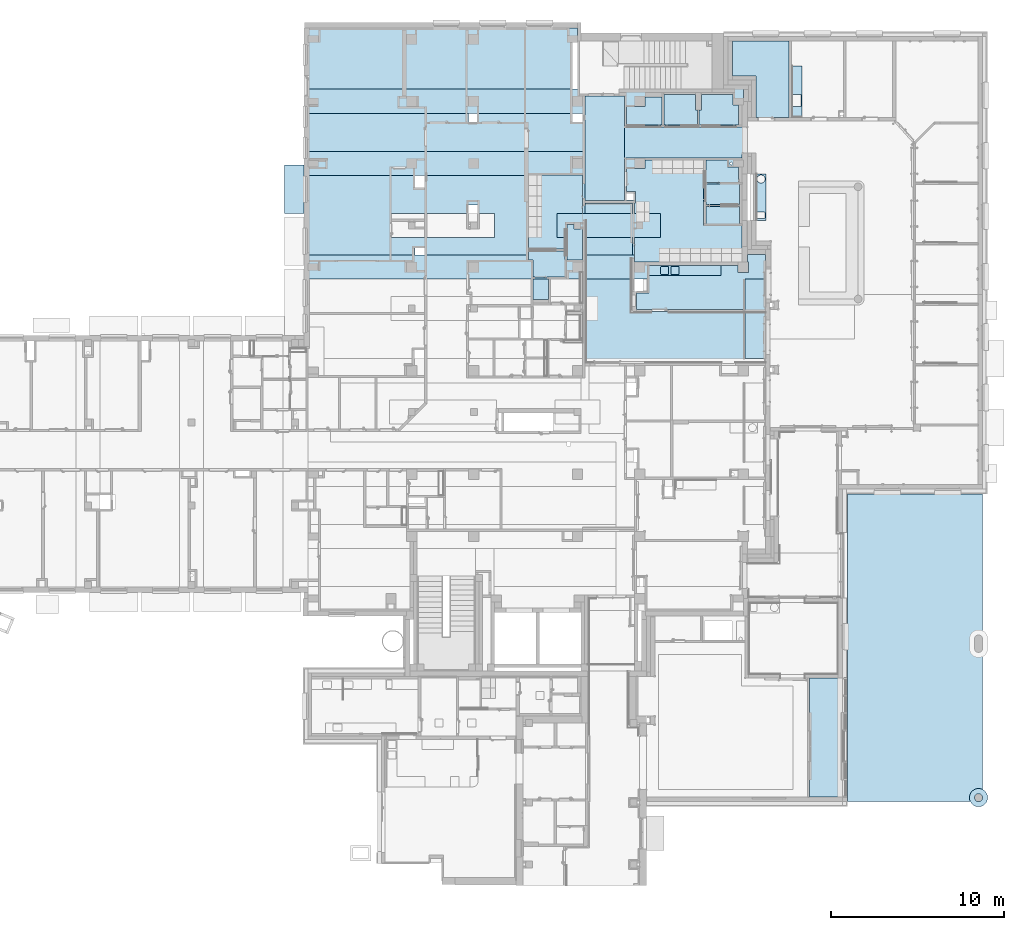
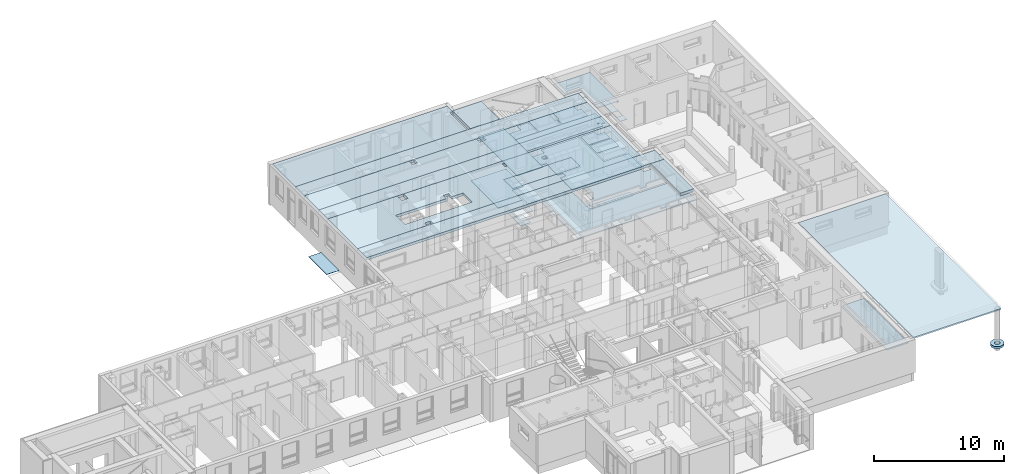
# One storey, part 12 of 140: 31 slabs, 9 openings.
"""IFC4 building model written with IfcOpenShell, lengths in metres."""

from ifc_helpers import new_model, entity, si_unit, converted_unit, derived_unit, frame, frame_2d, origin, origin_with_axes, place, context, subcontext, project, spatial, polyline, rectangle, circle, outline, extrude, material, element, save


model = new_model("IFC4")

# Units and contexts
model_context = context("Model", 3, precision=1e-05, world=origin())
body_context = subcontext(model_context, "Body", "Model", "MODEL_VIEW")
ifc_project = project(units=[si_unit("LENGTHUNIT", "METRE"), si_unit("AREAUNIT", "SQUARE_METRE"), si_unit("VOLUMEUNIT", "CUBIC_METRE"), si_unit("MASSUNIT", "GRAM", prefix="KILO"), converted_unit("PLANEANGLEUNIT", "DEGREE", entity("IfcPlaneAngleMeasure", 0.0174532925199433), si_unit("PLANEANGLEUNIT", "RADIAN"), dimensions=[0, 0, 0, 0, 0, 0, 0]), derived_unit("THERMALTRANSMITTANCEUNIT", [(si_unit("POWERUNIT", "WATT"), 1), (si_unit("THERMODYNAMICTEMPERATUREUNIT", "KELVIN"), -1), (si_unit("LENGTHUNIT", "METRE"), -2)]), derived_unit("VOLUMETRICFLOWRATEUNIT", [(si_unit("LENGTHUNIT", "METRE"), 3), (converted_unit("TIMEUNIT", "hour", entity("IfcTimeMeasure", 3600.0), si_unit("TIMEUNIT", "SECOND"), dimensions=[0, 0, 1, 0, 0, 0, 0]), -1), (si_unit("LENGTHUNIT", "METRE"), -1)])], contexts=[model_context])

# Site, building, storey
site_placement = place(None, origin())
site = spatial("IfcSite", under=ifc_project, at=site_placement, Name="3. ASŘ", CompositionType="ELEMENT")
building_placement = place(site_placement, origin())
building = spatial("IfcBuilding", under=site, at=building_placement, Name="Pavilon C", CompositionType="ELEMENT")
storey_placement = place(building_placement, origin())
storey = spatial("IfcBuildingStorey", under=building, at=storey_placement, Name="Půdorys 1.NP", CompositionType="ELEMENT", Elevation=0.0)

# Slabs
ifc_material_1 = material(Name="ROŠT")
slab_1_placement = place(storey_placement, frame((23.395, 22.3, 0.05)))
element("IfcSlab", 1, at=slab_1_placement, inside=storey, material=ifc_material_1, PredefinedType="FLOOR", context=body_context, shape_type="SweptSolid", body=[
    extrude(rectangle(XDim=1.10500000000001, YDim=2.8, at=frame_2d((0.552500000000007, 1.4), x_axis=(1.0, 0.0))), origin_with_axes(), (0.0, 0.0, 1.0), 0.03),
])
ifc_material_2 = material(Name="RZT")
slab_2_placement = place(storey_placement, frame((39.15, 20.9, 3.25)))
element("IfcSlab", 2, at=slab_2_placement, inside=storey, material=ifc_material_2, PredefinedType="FLOOR", context=body_context, shape_type="SweptSolid", body=[
    extrude(rectangle(XDim=1.4, YDim=6.0, at=frame_2d((-3.0, 0.7), x_axis=(0.0, 1.0))), frame((6.0, 0.0, 0.0), z_axis=(0.0, 0.0, 1.0), x_axis=(1.0, 0.0, 0.0)), (0.0, 0.0, 1.0), 0.25),
])

# Slab, opening
ifc_material_3 = material(Name="PZD")
slab_3_placement = place(storey_placement, frame((24.75, 29.5, 3.25)))
slab_3 = element("IfcSlab", 3, at=slab_3_placement, inside=storey, material=ifc_material_3, PredefinedType="FLOOR", context=body_context, shape_type="SweptSolid", body=[
    extrude(outline(polyline([(0.0, 3.63797880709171e-15), (18.2, 0.0), (18.2, 2.8), (15.6, 2.8), (15.6, 3.55), (0.0, 3.55), (0.0, 3.63797880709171e-15)])), origin_with_axes(), (0.0, 0.0, 1.0), 0.25),
])
opening_1_placement = place(slab_3_placement, frame((15.3, 0.0, 0.0)))
element("IfcOpeningElement", 4, at=opening_1_placement, cuts=slab_3, Name="Prostup deskou", ObjectType="Opening", context=body_context, shape_type="SweptSolid", body=[
    extrude(rectangle(XDim=2.7, YDim=0.3, at=frame_2d((7.27595761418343e-15, -3.63797880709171e-15), x_axis=(0.0, -1.0))), frame((0.149999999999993, 1.35, 0.0), z_axis=(0.0, 0.0, 1.0), x_axis=(1.0, 0.0, 0.0)), (0.0, 0.0, 1.0), 0.25),
])

ifc_material_4 = material(Name="RZT")
slab_4_placement = place(storey_placement, frame((24.75, 24.5, 3.25)))
slab_4 = element("IfcSlab", 5, at=slab_4_placement, inside=storey, material=ifc_material_4, PredefinedType="FLOOR", context=body_context, shape_type="SweptSolid", body=[
    extrude(rectangle(XDim=1.4, YDim=25.2, at=frame_2d((-12.6, 0.700000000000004), x_axis=(0.0, 1.0))), frame((25.2, 0.0, 0.0), z_axis=(0.0, 0.0, 1.0), x_axis=(1.0, 0.0, 0.0)), (0.0, 0.0, 1.0), 0.25),
])
opening_2_placement = place(slab_4_placement, frame((24.425077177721, 0.62507717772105, 0.0)))
element("IfcOpeningElement", 6, at=opening_2_placement, cuts=slab_4, Name="Prostup deskou", ObjectType="Opening", context=body_context, shape_type="SweptSolid", body=[
    extrude(circle(Radius=0.0749999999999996, at=frame_2d((7.27595761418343e-15, -3.63797880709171e-15), x_axis=(1.0, 0.0))), frame((0.0749228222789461, 0.0749228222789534, 0.0), z_axis=(0.0, 0.0, 1.0), x_axis=(1.0, 0.0, 0.0)), (0.0, 0.0, 1.0), 0.25),
])

# Slab, openings
ifc_material_5 = material(Name="PZD")
slab_5_placement = place(storey_placement, frame((24.75, 19.9, 3.25)))
slab_5 = element("IfcSlab", 7, at=slab_5_placement, inside=storey, material=ifc_material_5, PredefinedType="FLOOR", context=body_context, shape_type="SweptSolid", body=[
    extrude(outline(polyline([(0.0, 4.59999999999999), (0.0, 0.0), (25.2, 0.0), (25.2, 4.59999999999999), (0.0, 4.59999999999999)]), holes=[polyline([(20.4, 0.999999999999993), (14.4, 0.999999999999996), (14.4, 2.4), (20.4, 2.4), (20.4, 0.999999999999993)]), polyline([(10.8, 0.999999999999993), (4.8, 0.999999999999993), (4.8, 2.4), (10.8, 2.39999999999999), (10.8, 0.999999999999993)])]), origin_with_axes(), (0.0, 0.0, 1.0), 0.25),
])
opening_3_placement = place(slab_5_placement, frame((6.2, 3.9, 4.54747350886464e-16)))
element("IfcOpeningElement", 8, at=opening_3_placement, cuts=slab_5, Name="Prostup deskou", ObjectType="Opening", context=body_context, shape_type="SweptSolid", body=[
    extrude(rectangle(XDim=0.7, YDim=0.55, at=frame_2d((7.27595761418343e-15, -3.63797880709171e-15), x_axis=(0.0, -1.0))), frame((0.274999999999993, 0.350000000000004, -4.54747350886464e-16), z_axis=(0.0, 0.0, 1.0), x_axis=(1.0, 0.0, 0.0)), (0.0, 0.0, 1.0), 0.25),
])
opening_4_placement = place(slab_5_placement, frame((9.3, 2.4, 0.0)))
element("IfcOpeningElement", 9, at=opening_4_placement, cuts=slab_5, Name="Prostup deskou", ObjectType="Opening", context=body_context, shape_type="SweptSolid", body=[
    extrude(rectangle(XDim=0.5, YDim=0.5, at=frame_2d((7.27595761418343e-15, -3.63797880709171e-15), x_axis=(0.0, -1.0))), frame((0.249999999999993, 0.250000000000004, 0.0), z_axis=(0.0, 0.0, 1.0), x_axis=(1.0, 0.0, 0.0)), (0.0, 0.0, 1.0), 0.25),
])
opening_5_placement = place(slab_5_placement, frame((6.2, 0.0, 0.0)))
element("IfcOpeningElement", 10, at=opening_5_placement, cuts=slab_5, Name="Prostup deskou", ObjectType="Opening", context=body_context, shape_type="SweptSolid", body=[
    extrude(rectangle(XDim=0.4, YDim=0.55, at=frame_2d((7.27595761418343e-15, 0.0), x_axis=(0.0, -1.0))), frame((0.274999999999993, 0.2, 0.0), z_axis=(0.0, 0.0, 1.0), x_axis=(1.0, 0.0, 0.0)), (0.0, 0.0, 1.0), 0.25),
])
opening_6_placement = place(slab_5_placement, frame((15.35, 3.85, 0.0)))
element("IfcOpeningElement", 11, at=opening_6_placement, cuts=slab_5, Name="Prostup deskou", ObjectType="Opening", context=body_context, shape_type="SweptSolid", body=[
    extrude(rectangle(XDim=0.45, YDim=0.2, at=frame_2d((7.27595761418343e-15, -3.63797880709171e-15), x_axis=(0.0, -1.0))), frame((0.0999999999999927, 0.225000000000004, 0.0), z_axis=(0.0, 0.0, 1.0), x_axis=(1.0, 0.0, 0.0)), (0.0, 0.0, 1.0), 0.25),
])
opening_7_placement = place(slab_5_placement, frame((18.45, 3.17499999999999, 0.0)))
element("IfcOpeningElement", 12, at=opening_7_placement, cuts=slab_5, Name="Prostup deskou", ObjectType="Opening", context=body_context, shape_type="SweptSolid", body=[
    extrude(rectangle(XDim=0.4, YDim=0.4, at=frame_2d((7.27595761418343e-15, -3.63797880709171e-15), x_axis=(0.0, -1.0))), frame((0.199999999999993, 0.200000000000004, 0.0), z_axis=(0.0, 0.0, 1.0), x_axis=(1.0, 0.0, 0.0)), (0.0, 0.0, 1.0), 0.25),
])

ifc_material_6 = material(Name="PZD")
slab_6_placement = place(storey_placement, frame((24.75, 25.9, 3.25)))
slab_6 = element("IfcSlab", 13, at=slab_6_placement, inside=storey, material=ifc_material_6, PredefinedType="FLOOR", context=body_context, shape_type="SweptSolid", body=[
    extrude(rectangle(XDim=25.2, YDim=2.2, at=frame_2d((12.6, 1.1), x_axis=(1.0, -1.44364238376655e-16))), frame((0.0, 3.63797880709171e-15, 0.0), z_axis=(0.0, 0.0, 1.0), x_axis=(1.0, 0.0, 0.0)), (0.0, 0.0, 1.0), 0.25),
])
opening_8_placement = place(slab_6_placement, frame((15.3, 1.7, 0.0)))
element("IfcOpeningElement", 14, at=opening_8_placement, cuts=slab_6, Name="Prostup deskou", ObjectType="Opening", context=body_context, shape_type="SweptSolid", body=[
    extrude(rectangle(XDim=0.5, YDim=0.6, at=frame_2d((7.27595761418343e-15, -3.63797880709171e-15), x_axis=(0.0, -1.0))), frame((0.299999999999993, 0.250000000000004, 0.0), z_axis=(0.0, 0.0, 1.0), x_axis=(1.0, 0.0, 0.0)), (0.0, 0.0, 1.0), 0.25),
])
opening_9_placement = place(slab_6_placement, frame((9.3, 1.7, 4.54747350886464e-16)))
element("IfcOpeningElement", 15, at=opening_9_placement, cuts=slab_6, Name="Prostup deskou", ObjectType="Opening", context=body_context, shape_type="SweptSolid", body=[
    extrude(rectangle(XDim=0.5, YDim=0.475, at=frame_2d((7.27595761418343e-15, -3.63797880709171e-15), x_axis=(0.0, -1.0))), frame((0.237499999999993, 0.250000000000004, -4.54747350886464e-16), z_axis=(0.0, 0.0, 1.0), x_axis=(1.0, 0.0, 0.0)), (0.0, 0.0, 1.0), 0.25),
])

# Slabs
ifc_material_7 = material(Name="RZT")
slab_7_placement = place(storey_placement, frame((24.75, 28.1, 3.25)))
element("IfcSlab", 16, at=slab_7_placement, inside=storey, material=ifc_material_7, PredefinedType="FLOOR", context=body_context, shape_type="SweptSolid", body=[
    extrude(rectangle(XDim=1.4, YDim=25.2, at=frame_2d((-12.6, 0.700000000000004), x_axis=(0.0, 1.0))), frame((25.2, 0.0, 0.0), z_axis=(0.0, 0.0, 1.0), x_axis=(1.0, 0.0, 0.0)), (0.0, 0.0, 1.0), 0.25),
])
ifc_material_8 = material(Name="RZT")
slab_8_placement = place(storey_placement, frame((24.75, 18.5, 3.25)))
element("IfcSlab", 17, at=slab_8_placement, inside=storey, material=ifc_material_8, PredefinedType="FLOOR", context=body_context, shape_type="SweptSolid", body=[
    extrude(rectangle(XDim=1.4, YDim=26.5, at=frame_2d((-13.25, 0.7), x_axis=(0.0, 1.0))), frame((26.5, 0.0, 0.0), z_axis=(0.0, 0.0, 1.0), x_axis=(1.0, 0.0, 0.0)), (0.0, 0.0, 1.0), 0.25),
])
ifc_material_9 = material(Name="PZD")
slab_9_placement = place(storey_placement, frame((50.05, 13.9, 3.25)))
element("IfcSlab", 18, at=slab_9_placement, inside=storey, material=ifc_material_9, PredefinedType="FLOOR", context=body_context, shape_type="SweptSolid", body=[
    extrude(rectangle(XDim=1.2, YDim=4.6, at=frame_2d((0.6, 2.3), x_axis=(1.0, 0.0))), origin_with_axes(), (0.0, 0.0, 1.0), 0.25),
])
ifc_material_10 = material(Name="Pracovní deska")
slab_10_placement = place(storey_placement, frame((50.6798818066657, 21.900019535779, 0.82)))
element("IfcSlab", 19, at=slab_10_placement, inside=storey, material=ifc_material_10, PredefinedType="FLOOR", context=body_context, shape_type="SweptSolid", body=[
    extrude(outline(polyline([(0.000123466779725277, 0.0), (0.600123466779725, 0.0), (0.6, 2.69999540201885), (0.0, 2.69999540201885), (0.0, 2.39998046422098), (0.000123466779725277, 0.0)]), holes=[polyline([(0.35952838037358, 2.62215834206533), (0.38801718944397, 2.61248769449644), (0.415, 2.59918124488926), (0.440015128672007, 2.58246667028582), (0.462634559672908, 2.56262996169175), (0.482471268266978, 2.54001053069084), (0.499185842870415, 2.51499540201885), (0.512492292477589, 2.48801259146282), (0.522162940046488, 2.45952378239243), (0.528032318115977, 2.43001642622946), (0.53, 2.39999540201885), (0.528032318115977, 2.36997437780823), (0.522162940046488, 2.34046702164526), (0.512492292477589, 2.31197821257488), (0.499185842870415, 2.28499540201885), (0.482471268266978, 2.25998027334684), (0.462634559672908, 2.23736084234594), (0.440015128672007, 2.21752413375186), (0.415, 2.20080955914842), (0.38801718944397, 2.18750310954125), (0.35952838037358, 2.17783246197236), (0.330021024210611, 2.17196308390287), (0.3, 2.16999540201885), (0.269978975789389, 2.17196308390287), (0.24047161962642, 2.17783246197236), (0.21198281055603, 2.18750310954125), (0.185, 2.20080955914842), (0.159984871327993, 2.21752413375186), (0.137365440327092, 2.23736084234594), (0.117528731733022, 2.25998027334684), (0.100814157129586, 2.28499540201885), (0.0875077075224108, 2.31197821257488), (0.0778370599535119, 2.34046702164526), (0.0719676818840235, 2.36997437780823), (0.07, 2.39999540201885), (0.0719676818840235, 2.43001642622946), (0.0778370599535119, 2.45952378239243), (0.0875077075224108, 2.48801259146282), (0.100814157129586, 2.51499540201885), (0.117528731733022, 2.54001053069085), (0.137365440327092, 2.56262996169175), (0.159984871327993, 2.58246667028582), (0.185, 2.59918124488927), (0.21198281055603, 2.61248769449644), (0.24047161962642, 2.62215834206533), (0.269978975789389, 2.62802772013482), (0.3, 2.62999540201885), (0.330021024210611, 2.62802772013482), (0.35952838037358, 2.62215834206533)]), polyline([(0.0907358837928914, 0.475404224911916), (0.096326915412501, 0.48044052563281), (0.102803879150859, 0.484525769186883), (0.109969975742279, 0.487535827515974), (0.117607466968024, 0.489379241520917), (0.125484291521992, 0.489999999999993), (0.474762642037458, 0.489999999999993), (0.482639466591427, 0.489379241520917), (0.490276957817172, 0.487535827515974), (0.497443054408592, 0.484525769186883), (0.50392001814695, 0.48044052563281), (0.509511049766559, 0.475404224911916), (0.514046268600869, 0.469569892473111), (0.517387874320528, 0.463114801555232), (0.519434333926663, 0.456235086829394), (0.520123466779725, 0.44913978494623), (0.520123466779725, 0.150860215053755), (0.519434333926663, 0.143764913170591), (0.517387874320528, 0.136885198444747), (0.514046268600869, 0.130430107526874), (0.509511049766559, 0.12459577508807), (0.50392001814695, 0.119559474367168), (0.497443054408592, 0.115474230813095), (0.490276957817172, 0.112464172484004), (0.482639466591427, 0.110620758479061), (0.474762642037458, 0.109999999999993), (0.125484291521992, 0.109999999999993), (0.117607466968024, 0.110620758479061), (0.109969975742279, 0.112464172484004), (0.102803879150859, 0.115474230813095), (0.096326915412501, 0.119559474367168), (0.0907358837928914, 0.12459577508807), (0.0862006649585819, 0.130430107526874), (0.0828590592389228, 0.136885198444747), (0.0808125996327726, 0.143764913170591), (0.0801234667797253, 0.150860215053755), (0.0801234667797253, 0.44913978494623), (0.0808125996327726, 0.456235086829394), (0.0828590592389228, 0.463114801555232), (0.0862006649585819, 0.469569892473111), (0.0907358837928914, 0.475404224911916)])]), origin_with_axes(), (0.0, 0.0, 1.0), 0.0299999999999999),
])
ifc_material_11 = material(Name="Kuchyňská deska")
slab_11_placement = place(storey_placement, frame((52.7500001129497, 27.85, 0.82)))
element("IfcSlab", 20, at=slab_11_placement, inside=storey, material=ifc_material_11, PredefinedType="FLOOR", context=body_context, shape_type="SweptSolid", body=[
    extrude(outline(polyline([(0.0, 6.62672625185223e-05), (0.599999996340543, 0.0), (0.599999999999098, 2.3999333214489), (2.60035449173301e-09, 2.3999333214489), (0.0, 6.62672625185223e-05)]), holes=[polyline([(0.0678604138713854, 0.738368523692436), (0.07499979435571, 0.743367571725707), (0.0828987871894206, 0.747050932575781), (0.0913173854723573, 0.749306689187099), (0.09999979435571, 0.750066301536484), (0.49999979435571, 0.75006630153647), (0.506945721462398, 0.749458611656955), (0.512006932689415, 0.748603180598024), (0.516407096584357, 0.747222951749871), (0.522699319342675, 0.744616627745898), (0.529389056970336, 0.740517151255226), (0.535355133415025, 0.735421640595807), (0.540450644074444, 0.729455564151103), (0.544550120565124, 0.722765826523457), (0.547552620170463, 0.715517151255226), (0.549384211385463, 0.707888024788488), (0.54999979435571, 0.70006630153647), (0.550000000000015, 0.100000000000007), (0.549384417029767, 0.0921782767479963), (0.547552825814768, 0.0845491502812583), (0.544550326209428, 0.0773004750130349), (0.540450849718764, 0.0706107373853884), (0.535355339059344, 0.0646446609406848), (0.529389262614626, 0.0595491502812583), (0.522699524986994, 0.0554496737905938), (0.51892026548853, 0.0537179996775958), (0.513824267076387, 0.051949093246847), (0.506945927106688, 0.0506076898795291), (0.500000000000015, 0.0500000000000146), (0.100000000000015, 0.0500000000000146), (0.0913175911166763, 0.0507596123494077), (0.0828989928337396, 0.053015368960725), (0.0750000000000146, 0.0566987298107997), (0.0678606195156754, 0.0616977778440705), (0.0616977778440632, 0.0678606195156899), (0.0566987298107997, 0.0750000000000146), (0.0530153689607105, 0.0828989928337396), (0.0507596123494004, 0.0913175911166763), (0.0500000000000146, 0.100000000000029), (0.04999979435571, 0.700066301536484), (0.0507594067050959, 0.70874871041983), (0.053015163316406, 0.717167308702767), (0.0566985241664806, 0.725066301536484), (0.0616975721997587, 0.732205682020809), (0.0678604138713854, 0.738368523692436)])]), frame((3.91708723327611e-07, 0.600066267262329, 0.0), z_axis=(0.0, 0.0, 1.0), x_axis=(1.0, 0.0, 0.0)), (0.0, 0.0, 1.0), 0.03),
    extrude(rectangle(XDim=0.6, YDim=0.599999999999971, at=frame_2d((0.3, 0.299999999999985), x_axis=(1.0, 0.0))), origin_with_axes(), (0.0, 0.0, 1.0), 0.03),
])
ifc_material_12 = material(Name="Nerezová deska")
slab_12_placement = place(storey_placement, frame((44.4, 18.7, 0.82)))
element("IfcSlab", 21, at=slab_12_placement, inside=storey, material=ifc_material_12, PredefinedType="FLOOR", context=body_context, shape_type="SweptSolid", body=[
    extrude(outline(polyline([(4.25000000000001, 0.599999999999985), (0.1, 0.599999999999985), (0.0, 0.239999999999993), (0.1, 0.0), (4.25000000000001, 0.0), (4.25000000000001, 0.599999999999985)]), holes=[polyline([(1.23250000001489, 0.492500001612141), (1.23250000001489, 0.10750000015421), (1.23174038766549, 0.098817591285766), (1.22948463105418, 0.0903989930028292), (1.22580127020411, 0.0825000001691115), (1.22080222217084, 0.0753606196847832), (1.21463938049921, 0.0691977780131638), (1.20750000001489, 0.0641987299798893), (1.19960100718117, 0.0605153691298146), (1.19118240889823, 0.0582596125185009), (1.18249999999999, 0.0575000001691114), (0.817500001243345, 0.0575000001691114), (0.808817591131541, 0.0582596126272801), (0.800398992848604, 0.0605153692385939), (0.792500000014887, 0.0641987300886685), (0.785360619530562, 0.069197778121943), (0.779197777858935, 0.0753606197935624), (0.774198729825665, 0.0825000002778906), (0.77051536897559, 0.0903989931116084), (0.76825961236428, 0.0988175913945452), (0.767500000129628, 0.107499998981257), (0.767500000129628, 0.492500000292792), (0.768090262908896, 0.499999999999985), (0.767942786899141, 0.499999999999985), (0.770515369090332, 0.509601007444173), (0.774198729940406, 0.517500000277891), (0.779197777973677, 0.524639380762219), (0.785360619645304, 0.530802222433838), (0.792500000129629, 0.535801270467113), (0.800398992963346, 0.539484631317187), (0.808817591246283, 0.541740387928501), (0.81750000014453, 0.542500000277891), (1.18249999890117, 0.542500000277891), (1.19118240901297, 0.541740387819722), (1.19960100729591, 0.539484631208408), (1.20750000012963, 0.535801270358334), (1.21463938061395, 0.530802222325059), (1.22080222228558, 0.52463938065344), (1.22580127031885, 0.517500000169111), (1.22948463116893, 0.509601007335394), (1.23205721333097, 0.499999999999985), (1.23190973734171, 0.499999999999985), (1.23250000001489, 0.492500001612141)]), polyline([(1.80750000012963, 0.535801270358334), (1.81463938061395, 0.530802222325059), (1.82080222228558, 0.52463938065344), (1.82580127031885, 0.517500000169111), (1.82948463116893, 0.509601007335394), (1.83205721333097, 0.499999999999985), (1.83190973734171, 0.499999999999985), (1.83250000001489, 0.492500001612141), (1.83250000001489, 0.10750000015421), (1.83174038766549, 0.098817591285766), (1.82948463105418, 0.0903989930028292), (1.82580127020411, 0.0825000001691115), (1.82080222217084, 0.0753606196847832), (1.81463938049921, 0.0691977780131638), (1.80750000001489, 0.0641987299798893), (1.79960100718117, 0.0605153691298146), (1.79118240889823, 0.0582596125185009), (1.78249999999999, 0.0575000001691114), (1.41750000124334, 0.0575000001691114), (1.40881759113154, 0.0582596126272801), (1.4003989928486, 0.0605153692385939), (1.39250000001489, 0.0641987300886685), (1.38536061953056, 0.069197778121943), (1.37919777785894, 0.0753606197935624), (1.37419872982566, 0.0825000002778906), (1.37051536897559, 0.0903989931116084), (1.36825961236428, 0.0988175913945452), (1.36750000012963, 0.107499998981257), (1.36750000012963, 0.492500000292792), (1.3680902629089, 0.499999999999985), (1.36794278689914, 0.499999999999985), (1.37051536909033, 0.509601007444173), (1.37419872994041, 0.517500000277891), (1.37919777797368, 0.524639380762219), (1.3853606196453, 0.530802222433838), (1.39250000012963, 0.535801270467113), (1.40039899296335, 0.539484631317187), (1.40881759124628, 0.541740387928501), (1.41750000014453, 0.542500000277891), (1.78249999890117, 0.542500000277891), (1.79118240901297, 0.541740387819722), (1.79960100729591, 0.539484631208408), (1.80750000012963, 0.535801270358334)])]), origin_with_axes(), (0.0, 0.0, 1.0), 0.03),
])
ifc_material_13 = material(Name="POHLEDOVY BETON")
slab_13_placement = place(storey_placement, frame((63.05, -12.0489640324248, -0.1)))
element("IfcSlab", 22, at=slab_13_placement, inside=storey, material=ifc_material_13, PredefinedType="FLOOR", context=body_context, shape_type="SweptSolid", body=[
    extrude(outline(polyline([(1.01313265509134, 0.7172294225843), (0.985061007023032, 0.776884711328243), (0.949733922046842, 0.832551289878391), (0.907708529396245, 0.883351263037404), (0.859647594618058, 0.928483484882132), (0.806309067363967, 0.967236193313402), (0.748534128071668, 0.998998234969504), (0.687233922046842, 1.0232687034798), (0.623375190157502, 1.0396648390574), (0.557965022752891, 1.04792806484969), (0.492034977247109, 1.04792806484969), (0.426624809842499, 1.0396648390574), (0.362766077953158, 1.0232687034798), (0.301465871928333, 0.998998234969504), (0.243690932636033, 0.967236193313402), (0.190352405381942, 0.928483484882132), (0.142291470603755, 0.883351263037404), (0.100266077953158, 0.832551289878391), (0.0649389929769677, 0.776884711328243), (0.0368673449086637, 0.7172294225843), (0.0164938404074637, 0.654526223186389), (0.00413978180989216, 0.589763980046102), (0.0, 0.523964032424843), (0.00413978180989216, 0.458164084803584), (0.0164938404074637, 0.393401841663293), (0.0368673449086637, 0.330698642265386), (0.0649389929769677, 0.271043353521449), (0.100266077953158, 0.215376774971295), (0.142291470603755, 0.164576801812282), (0.190352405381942, 0.119444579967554), (0.243690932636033, 0.0806918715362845), (0.301465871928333, 0.0489298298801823), (0.362766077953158, 0.0246593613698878), (0.426624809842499, 0.00826322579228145), (0.492034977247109, 0.0), (0.557965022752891, 0.0), (0.623375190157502, 0.00826322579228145), (0.687233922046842, 0.0246593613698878), (0.748534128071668, 0.0489298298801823), (0.806309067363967, 0.0806918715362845), (0.859647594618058, 0.119444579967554), (0.907708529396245, 0.164576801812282), (0.949733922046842, 0.215376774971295), (0.985061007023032, 0.271043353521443), (1.01313265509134, 0.330698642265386), (1.03350615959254, 0.393401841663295), (1.04586021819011, 0.458164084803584), (1.05, 0.523964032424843), (1.04586021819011, 0.589763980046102), (1.03350615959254, 0.654526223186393), (1.01313265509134, 0.7172294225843)]), holes=[polyline([(0.697359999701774, 0.379336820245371), (0.669627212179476, 0.351604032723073), (0.6375, 0.329108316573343), (0.601954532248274, 0.312533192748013), (0.564070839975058, 0.302382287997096), (0.525, 0.298964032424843), (0.485929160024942, 0.302382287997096), (0.448045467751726, 0.312533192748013), (0.4125, 0.329108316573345), (0.380372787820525, 0.351604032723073), (0.352640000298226, 0.379336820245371), (0.330144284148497, 0.411464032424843), (0.313569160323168, 0.447009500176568), (0.303418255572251, 0.484893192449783), (0.3, 0.523964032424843), (0.303418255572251, 0.563034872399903), (0.313569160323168, 0.600918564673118), (0.330144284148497, 0.636464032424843), (0.352640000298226, 0.668591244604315), (0.380372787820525, 0.696324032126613), (0.4125, 0.718819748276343), (0.448045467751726, 0.735394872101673), (0.485929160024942, 0.74554577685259), (0.525, 0.748964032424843), (0.564070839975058, 0.74554577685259), (0.601954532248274, 0.735394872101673), (0.6375, 0.718819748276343), (0.669627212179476, 0.696324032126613), (0.697359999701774, 0.668591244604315), (0.719855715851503, 0.636464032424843), (0.736430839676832, 0.600918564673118), (0.746581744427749, 0.563034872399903), (0.75, 0.523964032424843), (0.746581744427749, 0.484893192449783), (0.736430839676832, 0.447009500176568), (0.719855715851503, 0.411464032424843), (0.697359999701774, 0.379336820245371)])]), origin_with_axes(), (0.0, 0.0, 1.0), 0.2),
])
ifc_material_14 = material(Name="MINERÁLNÍ VATA")
slab_14_placement = place(storey_placement, frame((56.0, -11.75, 3.28)))
element("IfcSlab", 23, at=slab_14_placement, inside=storey, material=ifc_material_14, PredefinedType="FLOOR", context=body_context, shape_type="SweptSolid", body=[
    extrude(rectangle(XDim=17.8, YDim=7.79999999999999, at=frame_2d((3.9, -8.9), x_axis=(0.0, -1.0))), frame((0.0, 17.8, 0.0), z_axis=(0.0, 0.0, 1.0), x_axis=(1.0, 0.0, 0.0)), (0.0, 0.0, 1.0), 0.12),
])
ifc_material_15 = material(Name="Kazetový podhled bílý 0,6×0,6")
slab_15_placement = place(storey_placement, frame((49.33, 27.85, 2.8)))
element("IfcSlab", 24, at=slab_15_placement, inside=storey, material=ifc_material_15, PredefinedType="FLOOR", context=body_context, shape_type="SweptSolid", body=[
    extrude(outline(polyline([(0.0, 4.45), (0.0, 2.43), (1.35, 2.43), (1.35, 0.0), (3.27, 0.0), (3.27, 4.45), (0.0, 4.45)])), origin_with_axes(), (0.0, 0.0, 1.0), 0.05),
])
ifc_material_16 = material(Name="Kazetový podhled bílý 0,6×0,6")
slab_16_placement = place(storey_placement, frame((45.35, 27.425, 2.6)))
element("IfcSlab", 25, at=slab_16_placement, inside=storey, material=ifc_material_16, PredefinedType="FLOOR", context=body_context, shape_type="SweptSolid", body=[
    extrude(outline(polyline([(0.0, 0.0), (1.94999999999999, 0.0), (1.94999999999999, 0.875), (1.825, 0.875), (1.825, 1.77500000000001), (0.0, 1.77500000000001), (0.0, 0.0)])), origin_with_axes(), (0.0, 0.0, 1.0), 0.05),
])
ifc_material_17 = material(Name="Kazetový podhled bílý 0,6×0,6")
slab_17_placement = place(storey_placement, frame((47.4, 27.425, 2.6)))
element("IfcSlab", 26, at=slab_17_placement, inside=storey, material=ifc_material_17, PredefinedType="FLOOR", context=body_context, shape_type="SweptSolid", body=[
    extrude(outline(polyline([(0.0, 0.875000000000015), (0.0, 0.0), (2.28000000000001, 0.0), (2.28000000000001, 1.17500000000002), (1.95000000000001, 1.17500000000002), (1.95000000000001, 1.77500000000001), (0.125000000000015, 1.77500000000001), (0.125000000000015, 0.875000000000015), (0.0, 0.875000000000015)])), origin_with_axes(), (0.0, 0.0, 1.0), 0.05),
])
ifc_material_18 = material(Name="Kazetový podhled bílý 0,6×0,6")
slab_18_placement = place(storey_placement, frame((43.2, 27.425, 2.6)))
element("IfcSlab", 27, at=slab_18_placement, inside=storey, material=ifc_material_18, PredefinedType="FLOOR", context=body_context, shape_type="SweptSolid", body=[
    extrude(outline(polyline([(2.05, 1.62500000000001), (1.05, 1.62500000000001), (1.05, 1.07500000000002), (0.0, 1.07500000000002), (0.0, 0.0), (2.05, 0.0), (2.05, 1.62500000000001)])), origin_with_axes(), (0.0, 0.0, 1.0), 0.05),
])
ifc_material_19 = material(Name="Kazetový podhled bílý 0,6×0,6")
slab_19_placement = place(storey_placement, frame((40.775, 13.625, 2.6)))
element("IfcSlab", 28, at=slab_19_placement, inside=storey, material=ifc_material_19, PredefinedType="FLOOR", context=body_context, shape_type="SweptSolid", body=[
    extrude(outline(polyline([(0.0, 9.3), (0.0, 7.27595761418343e-15), (10.475, 0.0), (10.475, 3.00000000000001), (2.75, 3.00000000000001), (2.75, 9.3), (0.0, 9.3)])), origin_with_axes(), (0.0, 0.0, 1.0), 0.05),
])
ifc_material_20 = material(Name="Kazetový podhled bílý 0,6×0,6")
slab_20_placement = place(storey_placement, frame((37.775, 17.325, 2.6)))
element("IfcSlab", 29, at=slab_20_placement, inside=storey, material=ifc_material_20, PredefinedType="FLOOR", context=body_context, shape_type="SweptSolid", body=[
    extrude(rectangle(XDim=1.175, YDim=0.9, at=frame_2d((-0.45, 0.5875), x_axis=(0.0, 1.0))), frame((0.9, 0.0, 0.0), z_axis=(0.0, 0.0, 1.0), x_axis=(1.0, 0.0, 0.0)), (0.0, 0.0, 1.0), 0.05),
])
ifc_material_21 = material(Name="Kazet. podhled do vlhka 0,6×0,6")
slab_21_placement = place(storey_placement, frame((43.775, 16.75, 2.6)))
element("IfcSlab", 30, at=slab_21_placement, inside=storey, material=ifc_material_21, PredefinedType="FLOOR", context=body_context, shape_type="SweptSolid", body=[
    extrude(outline(polyline([(7.475, 0.0), (7.475, 2.45), (7.475, 3.17), (6.425, 3.17), (6.425, 2.75), (6.475, 2.75), (6.475, 2.15), (5.875, 2.15), (5.875, 2.55), (0.725, 2.55), (0.725, 0.950000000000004), (0.0, 0.950000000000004), (0.0, 0.0), (7.475, 0.0)])), origin_with_axes(), (0.0, 0.0, 1.0), 0.05),
])
ifc_material_22 = material(Name="Kazetový podhled bílý 0,6×0,6")
slab_22_placement = place(storey_placement, frame((43.2, 19.5, 2.6)))
element("IfcSlab", 31, at=slab_22_placement, inside=storey, material=ifc_material_22, PredefinedType="FLOOR", context=body_context, shape_type="SweptSolid", body=[
    extrude(outline(polyline([(1.05, 5.9), (1.05, 5.4), (0.0, 5.4), (0.0, 4.075), (0.5, 4.075), (0.5, 3.425), (0.45, 3.425), (0.45, 2.3), (0.95, 2.3), (0.95, 1.9), (0.45, 1.9), (0.45, 0.0), (6.68, 0.0), (6.68, 2.09999999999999), (4.455, 2.1), (4.455, 5.9), (1.05, 5.9)])), origin_with_axes(), (0.0, 0.0, 1.0), 0.05),
])
ifc_material_23 = material(Name="Kazet. podhled do vlhka 0,6×0,6")
slab_23_placement = place(storey_placement, frame((47.78, 21.7, 2.6)))
element("IfcSlab", 32, at=slab_23_placement, inside=storey, material=ifc_material_23, PredefinedType="FLOOR", context=body_context, shape_type="SweptSolid", body=[
    extrude(rectangle(XDim=1.00000000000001, YDim=1.95, at=frame_2d((0.975, -0.500000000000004), x_axis=(0.0, -1.0))), frame((0.0, 1.00000000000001, 0.0), z_axis=(0.0, 0.0, 1.0), x_axis=(1.0, 0.0, 0.0)), (0.0, 0.0, 1.0), 0.05),
])
ifc_material_24 = material(Name="Kazetový podhled bílý 0,6×0,6")
slab_24_placement = place(storey_placement, frame((47.78, 22.825, 2.6)))
element("IfcSlab", 33, at=slab_24_placement, inside=storey, material=ifc_material_24, PredefinedType="FLOOR", context=body_context, shape_type="SweptSolid", body=[
    extrude(rectangle(XDim=1.95, YDim=1.175, at=frame_2d((-0.975, -0.5875), x_axis=(-1.0, 0.0))), frame((1.95, 1.175, 0.0), z_axis=(0.0, 0.0, 1.0), x_axis=(1.0, 0.0, 0.0)), (0.0, 0.0, 1.0), 0.05),
])
ifc_material_25 = material(Name="Kazetový podhled bílý 0,6×0,6")
slab_25_placement = place(storey_placement, frame((47.78, 24.1, 2.6)))
element("IfcSlab", 34, at=slab_25_placement, inside=storey, material=ifc_material_25, PredefinedType="FLOOR", context=body_context, shape_type="SweptSolid", body=[
    extrude(outline(polyline([(0.0, 1.3), (0.0, 0.0), (1.9, 0.0), (1.9, 0.9), (1.25, 0.9), (1.25, 1.3), (0.0, 1.3)])), origin_with_axes(), (0.0, 0.0, 1.0), 0.05),
])
ifc_material_26 = material(Name="SDK hladký bílý")
slab_26_placement = place(storey_placement, frame((53.78, -11.5, 2.8)))
element("IfcSlab", 35, at=slab_26_placement, inside=storey, material=ifc_material_26, PredefinedType="FLOOR", context=body_context, shape_type="SweptSolid", body=[
    extrude(rectangle(XDim=1.92, YDim=6.89999999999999, at=frame_2d((-0.96, -3.44999999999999), x_axis=(-1.0, 0.0))), frame((1.92, 6.89999999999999, 0.0), z_axis=(0.0, 0.0, 1.0), x_axis=(1.0, 0.0, 0.0)), (0.0, 0.0, 1.0), 0.05),
])
ifc_material_27 = material(Name="Kazetový podhled bílý 0,6×0,6")
slab_27_placement = place(storey_placement, frame((37.5, 20.25, 2.6)))
element("IfcSlab", 36, at=slab_27_placement, inside=storey, material=ifc_material_27, PredefinedType="FLOOR", context=body_context, shape_type="SweptSolid", body=[
    extrude(outline(polyline([(2.125, 1.55), (3.15, 1.55), (3.15, 4.27), (0.0, 4.27), (0.0, 0.0), (2.125, 0.0), (2.125, 1.55)])), origin_with_axes(), (0.0, 0.0, 1.0), 0.05),
])
ifc_material_28 = material(Name="Kazetový podhled hyg. 0,6×0,6")
slab_28_placement = place(storey_placement, frame((40.775, 23.05, 2.8)))
element("IfcSlab", 37, at=slab_28_placement, inside=storey, material=ifc_material_28, PredefinedType="FLOOR", context=body_context, shape_type="SweptSolid", body=[
    extrude(outline(polyline([(2.3, 4.24999999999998), (2.3, 6.05), (0.0, 6.05), (0.0, 0.0), (2.3, 0.0), (2.3, 2.475), (2.3, 4.24999999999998)])), origin_with_axes(), (0.0, 0.0, 1.0), 0.05),
])
ifc_material_29 = material(Name="Kazet. podhled do vlhka 0,6×0,6")
slab_29_placement = place(storey_placement, frame((39.7499976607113, 19.6, 2.6)))
element("IfcSlab", 38, at=slab_29_placement, inside=storey, material=ifc_material_29, PredefinedType="FLOOR", context=body_context, shape_type="SweptSolid", body=[
    extrude(outline(polyline([(0.400002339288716, 2.075), (0.0, 2.075), (2.33928871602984e-06, 0.0), (0.900002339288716, 0.0), (0.900002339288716, 1.8), (0.400002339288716, 1.8), (0.400002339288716, 2.075)])), origin_with_axes(), (0.0, 0.0, 1.0), 0.05),
])
ifc_material_30 = material(Name="Kazetový podhled bílý 0,6×0,6")
slab_30_placement = place(storey_placement, frame((37.5, 18.625, 2.6)))
element("IfcSlab", 39, at=slab_30_placement, inside=storey, material=ifc_material_30, PredefinedType="FLOOR", context=body_context, shape_type="SweptSolid", body=[
    extrude(outline(polyline([(0.275, 0.0), (2.125, 0.0), (2.125, 1.5), (0.0, 1.5), (0.0, 1.0), (0.275, 1.0), (0.275, 0.0)])), origin_with_axes(), (0.0, 0.0, 1.0), 0.05),
])
ifc_material_31 = material(Name="Kazetový podhled hyg. 0,6×0,6")
slab_31_placement = place(storey_placement, frame((43.075, 25.525, 2.8)))
element("IfcSlab", 40, at=slab_31_placement, inside=storey, material=ifc_material_31, PredefinedType="FLOOR", context=body_context, shape_type="SweptSolid", body=[
    extrude(outline(polyline([(6.805, 0.0), (6.805, 0.274999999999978), (7.125, 0.274999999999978), (7.125, 1.77499999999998), (0.0, 1.77499999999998), (0.0, 0.0), (6.805, 0.0)])), origin_with_axes(), (0.0, 0.0, 1.0), 0.05),
])

save(model, "model.ifc")
